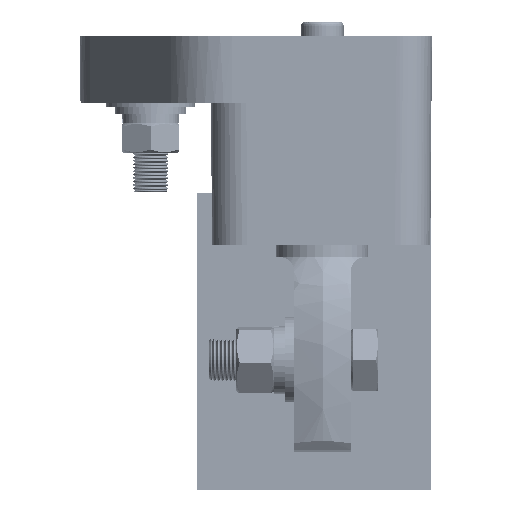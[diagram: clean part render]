
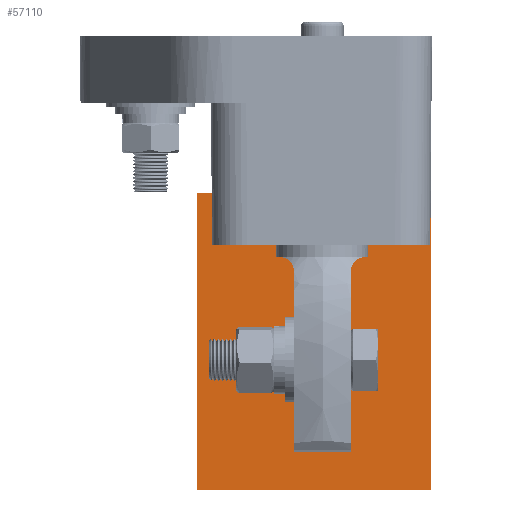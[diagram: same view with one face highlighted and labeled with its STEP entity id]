
A CAD part, left-side view. The second image highlights one B-rep face of the part: STEP entity #57110.
In plain terms, the highlighted planar face has unit normal (-1, 0, 0) as drawn and (0, 1, 0) by its records, which use the part's own axes.
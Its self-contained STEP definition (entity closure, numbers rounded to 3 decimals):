
#686 = ORIENTED_EDGE ( 'NONE', *, *, #42199, .F. ) ;
#1518 = VERTEX_POINT ( 'NONE', #7479 ) ;
#2119 = ORIENTED_EDGE ( 'NONE', *, *, #50134, .F. ) ;
#4238 = CARTESIAN_POINT ( 'NONE',  ( 0., 2.4, 0. ) ) ;
#4624 = DIRECTION ( 'NONE',  ( 0., 0., 1. ) ) ;
#5039 = CARTESIAN_POINT ( 'NONE',  ( 66., 2.4, 0. ) ) ;
#5301 = DIRECTION ( 'NONE',  ( 0., 0., 1. ) ) ;
#5530 = ORIENTED_EDGE ( 'NONE', *, *, #14167, .F. ) ;
#5631 = CIRCLE ( 'NONE', #56704, 3.5 ) ;
#5808 = VERTEX_POINT ( 'NONE', #47405 ) ;
#5981 = EDGE_CURVE ( 'NONE', #12831, #46383, #5631, .T. ) ;
#6861 = DIRECTION ( 'NONE',  ( 0., 1., 0. ) ) ;
#6916 = ORIENTED_EDGE ( 'NONE', *, *, #42570, .T. ) ;
#7225 = CARTESIAN_POINT ( 'NONE',  ( 10., 2.4, -73.5 ) ) ;
#7479 = CARTESIAN_POINT ( 'NONE',  ( 56., 2.4, -73.5 ) ) ;
#9506 = ORIENTED_EDGE ( 'NONE', *, *, #30413, .F. ) ;
#9538 = LINE ( 'NONE', #32266, #42281 ) ;
#10777 = VERTEX_POINT ( 'NONE', #37304 ) ;
#11554 = LINE ( 'NONE', #14274, #29631 ) ;
#11732 = CARTESIAN_POINT ( 'NONE',  ( 0., 2.4, 0. ) ) ;
#12177 = AXIS2_PLACEMENT_3D ( 'NONE', #11732, #33505, #55316 ) ;
#12831 = VERTEX_POINT ( 'NONE', #55009 ) ;
#13557 = ORIENTED_EDGE ( 'NONE', *, *, #18030, .T. ) ;
#13842 = CARTESIAN_POINT ( 'NONE',  ( 0., 2.4, -84. ) ) ;
#14167 = EDGE_CURVE ( 'NONE', #46383, #12831, #30180, .T. ) ;
#14274 = CARTESIAN_POINT ( 'NONE',  ( 57.5, 2.4, 0. ) ) ;
#14456 = CARTESIAN_POINT ( 'NONE',  ( 57.5, 2.4, -87. ) ) ;
#15428 = EDGE_CURVE ( 'NONE', #48526, #5808, #19721, .T. ) ;
#15618 = DIRECTION ( 'NONE',  ( 0., 0., 1. ) ) ;
#15788 = FACE_BOUND ( 'NONE', #37272, .T. ) ;
#16095 = LINE ( 'NONE', #39099, #46046 ) ;
#18030 = EDGE_CURVE ( 'NONE', #45958, #32152, #43284, .T. ) ;
#18129 = CARTESIAN_POINT ( 'NONE',  ( 56., 2.4, -80.5 ) ) ;
#19139 = DIRECTION ( 'NONE',  ( 0., 0., -1. ) ) ;
#19655 = ORIENTED_EDGE ( 'NONE', *, *, #15428, .T. ) ;
#19684 = VECTOR ( 'NONE', #22965, 1000. ) ;
#19715 = AXIS2_PLACEMENT_3D ( 'NONE', #49025, #54612, #34368 ) ;
#19721 = LINE ( 'NONE', #51225, #29413 ) ;
#20012 = VERTEX_POINT ( 'NONE', #18129 ) ;
#22965 = DIRECTION ( 'NONE',  ( -1., 0., 0. ) ) ;
#23041 = DIRECTION ( 'NONE',  ( 0., 0., 1. ) ) ;
#23519 = ORIENTED_EDGE ( 'NONE', *, *, #5981, .F. ) ;
#23578 = ORIENTED_EDGE ( 'NONE', *, *, #27890, .T. ) ;
#26674 = DIRECTION ( 'NONE',  ( 0., 1., 0. ) ) ;
#27890 = EDGE_CURVE ( 'NONE', #51137, #48526, #55152, .T. ) ;
#28614 = CIRCLE ( 'NONE', #46039, 3.5 ) ;
#29413 = VECTOR ( 'NONE', #19139, 1000. ) ;
#29631 = VECTOR ( 'NONE', #23041, 1000. ) ;
#30180 = CIRCLE ( 'NONE', #41641, 3.5 ) ;
#30249 = ORIENTED_EDGE ( 'NONE', *, *, #52847, .F. ) ;
#30333 = DIRECTION ( 'NONE',  ( 1., 0., 0. ) ) ;
#30413 = EDGE_CURVE ( 'NONE', #45958, #10777, #11554, .T. ) ;
#32152 = VERTEX_POINT ( 'NONE', #45896 ) ;
#32266 = CARTESIAN_POINT ( 'NONE',  ( 0., 2.4, -84. ) ) ;
#32508 = CIRCLE ( 'NONE', #19715, 3.5 ) ;
#33505 = DIRECTION ( 'NONE',  ( 0., 1., 0. ) ) ;
#33880 = CARTESIAN_POINT ( 'NONE',  ( 10., 2.4, -77. ) ) ;
#34368 = DIRECTION ( 'NONE',  ( 0., 0., 1. ) ) ;
#34853 = DIRECTION ( 'NONE',  ( 1., 0., 0. ) ) ;
#35206 = EDGE_CURVE ( 'NONE', #32152, #42301, #47532, .T. ) ;
#35996 = FACE_BOUND ( 'NONE', #47956, .T. ) ;
#37272 = EDGE_LOOP ( 'NONE', ( #686, #30249 ) ) ;
#37304 = CARTESIAN_POINT ( 'NONE',  ( 57.5, 2.4, -84.5 ) ) ;
#38277 = ORIENTED_EDGE ( 'NONE', *, *, #35206, .T. ) ;
#39099 = CARTESIAN_POINT ( 'NONE',  ( 0., 2.4, -84.5 ) ) ;
#40280 = DIRECTION ( 'NONE',  ( 0., 0., 1. ) ) ;
#40481 = VECTOR ( 'NONE', #56848, 1000. ) ;
#40559 = VECTOR ( 'NONE', #34853, 1000. ) ;
#40680 = CARTESIAN_POINT ( 'NONE',  ( 54.5, 2.4, -84. ) ) ;
#41641 = AXIS2_PLACEMENT_3D ( 'NONE', #44335, #53241, #4624 ) ;
#41874 = EDGE_LOOP ( 'NONE', ( #2119, #9506, #13557, #38277, #6916, #23578, #19655 ) ) ;
#42199 = EDGE_CURVE ( 'NONE', #20012, #1518, #32508, .T. ) ;
#42281 = VECTOR ( 'NONE', #5301, 1000. ) ;
#42301 = VERTEX_POINT ( 'NONE', #13842 ) ;
#42501 = PLANE ( 'NONE',  #12177 ) ;
#42570 = EDGE_CURVE ( 'NONE', #42301, #51137, #9538, .T. ) ;
#43284 = LINE ( 'NONE', #43464, #40481 ) ;
#43464 = CARTESIAN_POINT ( 'NONE',  ( 57.5, 2.4, -87. ) ) ;
#43649 = CARTESIAN_POINT ( 'NONE',  ( 0., 2.4, 0. ) ) ;
#44335 = CARTESIAN_POINT ( 'NONE',  ( 10., 2.4, -77. ) ) ;
#44970 = CARTESIAN_POINT ( 'NONE',  ( 56., 2.4, -77. ) ) ;
#45896 = CARTESIAN_POINT ( 'NONE',  ( 54.5, 2.4, -84. ) ) ;
#45958 = VERTEX_POINT ( 'NONE', #14456 ) ;
#46039 = AXIS2_PLACEMENT_3D ( 'NONE', #44970, #26674, #40280 ) ;
#46046 = VECTOR ( 'NONE', #30333, 1000. ) ;
#46383 = VERTEX_POINT ( 'NONE', #7225 ) ;
#47405 = CARTESIAN_POINT ( 'NONE',  ( 66., 2.4, -84.5 ) ) ;
#47532 = LINE ( 'NONE', #40680, #19684 ) ;
#47956 = EDGE_LOOP ( 'NONE', ( #23519, #5530 ) ) ;
#48526 = VERTEX_POINT ( 'NONE', #5039 ) ;
#49025 = CARTESIAN_POINT ( 'NONE',  ( 56., 2.4, -77. ) ) ;
#49913 = FACE_OUTER_BOUND ( 'NONE', #41874, .T. ) ;
#50134 = EDGE_CURVE ( 'NONE', #10777, #5808, #16095, .T. ) ;
#51137 = VERTEX_POINT ( 'NONE', #4238 ) ;
#51225 = CARTESIAN_POINT ( 'NONE',  ( 66., 2.4, 0. ) ) ;
#52847 = EDGE_CURVE ( 'NONE', #1518, #20012, #28614, .T. ) ;
#53241 = DIRECTION ( 'NONE',  ( 0., 1., 0. ) ) ;
#54612 = DIRECTION ( 'NONE',  ( 0., 1., 0. ) ) ;
#55009 = CARTESIAN_POINT ( 'NONE',  ( 10., 2.4, -80.5 ) ) ;
#55152 = LINE ( 'NONE', #43649, #40559 ) ;
#55316 = DIRECTION ( 'NONE',  ( 0., 0., 1. ) ) ;
#56704 = AXIS2_PLACEMENT_3D ( 'NONE', #33880, #6861, #15618 ) ;
#56848 = DIRECTION ( 'NONE',  ( -0.707, 0., 0.707 ) ) ;
#57110 = ADVANCED_FACE ( 'NONE', ( #15788, #35996, #49913 ), #42501, .T. ) ;
